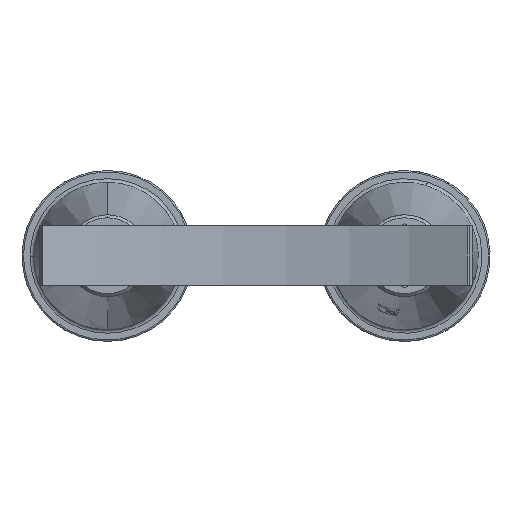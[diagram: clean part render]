
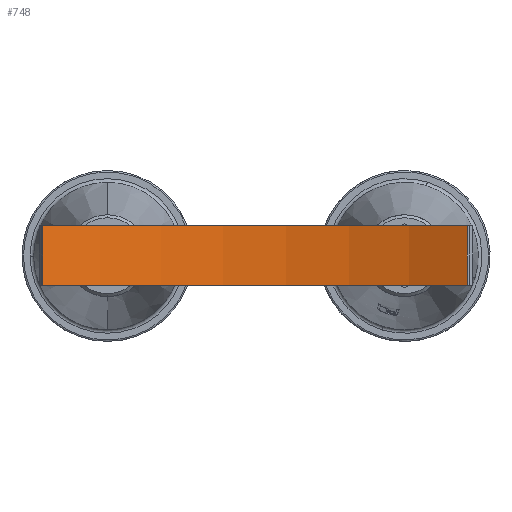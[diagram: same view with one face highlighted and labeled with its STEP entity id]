
A CAD part, top view. The second image highlights one B-rep face of the part: STEP entity #748.
In plain terms, the highlighted cylindrical face has radius 606 mm (diameter 1212 mm), a partial arc.
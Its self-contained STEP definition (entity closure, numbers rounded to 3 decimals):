
#748=ADVANCED_FACE('',(#1449),#1450,.F.);
#1449=FACE_OUTER_BOUND('',#2152,.T.);
#1450=CYLINDRICAL_SURFACE('',#2153,606.);
#2152=EDGE_LOOP('',(#3960,#3961,#3962,#3963));
#2153=AXIS2_PLACEMENT_3D('',#3964,#3965,#3966);
#3960=ORIENTED_EDGE('',*,*,#4688,.T.);
#3961=ORIENTED_EDGE('',*,*,#4678,.F.);
#3962=ORIENTED_EDGE('',*,*,#4689,.T.);
#3963=ORIENTED_EDGE('',*,*,#4685,.T.);
#3964=CARTESIAN_POINT('',(511.954,677.466,718.029));
#3965=DIRECTION('',(0.,-1.0,0.));
#3966=DIRECTION('',(1.0,0.,0.));
#4678=EDGE_CURVE('',#5699,#5694,#5701,.T.);
#4685=EDGE_CURVE('',#5711,#5709,#5712,.T.);
#4688=EDGE_CURVE('',#5709,#5694,#5715,.T.);
#4689=EDGE_CURVE('',#5699,#5711,#5716,.T.);
#5694=VERTEX_POINT('',#8633);
#5699=VERTEX_POINT('',#8640);
#5701=LINE('',#8643,#8644);
#5709=VERTEX_POINT('',#8653);
#5711=VERTEX_POINT('',#8656);
#5712=LINE('',#8657,#8658);
#5715=CIRCLE('',#8662,606.);
#5716=CIRCLE('',#8663,606.);
#8633=CARTESIAN_POINT('',(795.98,597.466,182.711));
#8640=CARTESIAN_POINT('',(795.98,677.466,182.711));
#8643=CARTESIAN_POINT('',(795.98,677.466,182.711));
#8644=VECTOR('',#9414,1.0);
#8653=CARTESIAN_POINT('',(224.886,597.466,184.337));
#8656=CARTESIAN_POINT('',(224.886,677.466,184.337));
#8657=CARTESIAN_POINT('',(224.886,677.466,184.337));
#8658=VECTOR('',#9423,1.0);
#8662=AXIS2_PLACEMENT_3D('',#9425,#9426,#9427);
#8663=AXIS2_PLACEMENT_3D('',#9428,#9429,#9430);
#9414=DIRECTION('',(0.,-1.0,0.));
#9423=DIRECTION('',(0.,-1.0,0.));
#9425=CARTESIAN_POINT('',(511.954,597.466,718.029));
#9426=DIRECTION('',(0.,-1.0,0.));
#9427=DIRECTION('',(1.0,0.,0.));
#9428=CARTESIAN_POINT('',(511.954,677.466,718.029));
#9429=DIRECTION('',(0.,1.0,0.));
#9430=DIRECTION('',(1.0,0.,0.));
